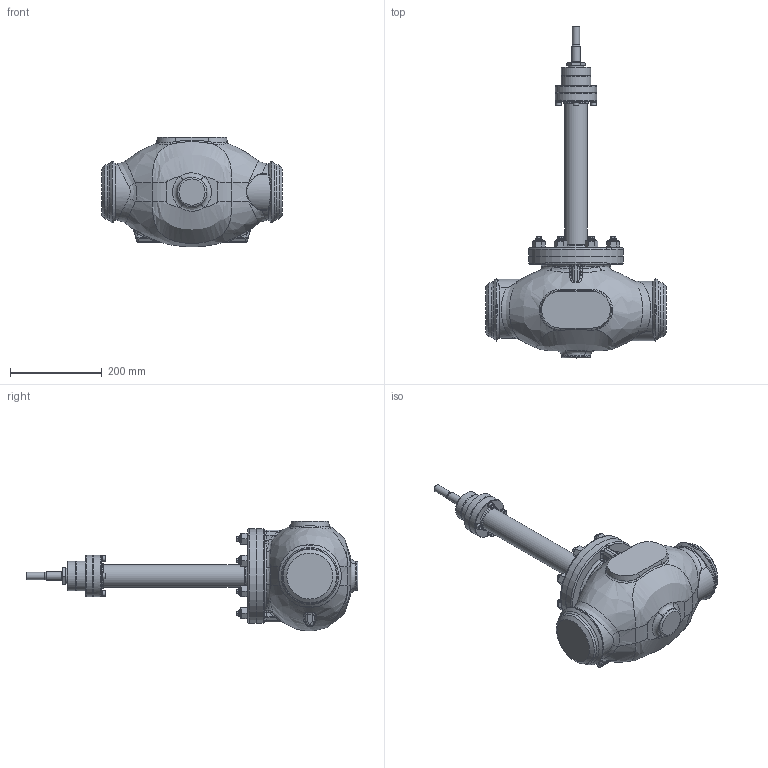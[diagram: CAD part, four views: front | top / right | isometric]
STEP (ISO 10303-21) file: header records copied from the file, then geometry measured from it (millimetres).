
FILE_DESCRIPTION(/* description */ (''),/* implementation_level */ '2;1');
FILE_NAME(/* name */ 'CV3xx_NPS_4_privarovaci_vlnovec.stp',/* time_stamp */ '2015-08-11T10:05:42+02:00',/* author */ (''),/* organization */ (''),/* preprocessor_version */ 'ST-DEVELOPER v15',/* originating_system */ 'SIEMENS PLM Software NX 8.5',/* authorisation */ '');
FILE_SCHEMA (('AP203_CONFIGURATION_CONTROLLED_3D_DESIGN_OF_MECHANICAL_PARTS_AND_ASSEMBLIES_MIM_LF { 1 0 10303 403 2 1 2}'));
Length unit declared in the file: millimetre
Products named in the file (1): adam1354300Cul6e
Bounding box: 394 x 724 x 239.85 mm (x, y, z)
Volume: 12216548.6 mm3; surface area: 476278.6 mm2
Topology: 1 solids, 1 shells, 770 faces, 1774 edges, 1049 vertices
Faces by surface type: plane 248, cone 197, cylinder 154, bspline 106, torus 53, sphere 12
Full cylindrical faces by diameter (mm): 7 x4, 7.76 x4, 9 x4, 11.64 x4, 12.5 x8, 16 x25, 18 x9, 24 x16, 27 x1, 33 x1, 50 x1, 50.3 x2, 55 x1, 58 x1, 61.6 x1, 64 x1, 65 x2, 90 x2, 140 x1, 206 x2
Entity records: 23996 total; most frequent: CARTESIAN_POINT 8670, ORIENTED_EDGE 3078, DIRECTION 2971, EDGE_CURVE 1539, AXIS2_PLACEMENT_3D 1310, EDGE_LOOP 1013, VERTEX_POINT 982, ADVANCED_FACE 770
